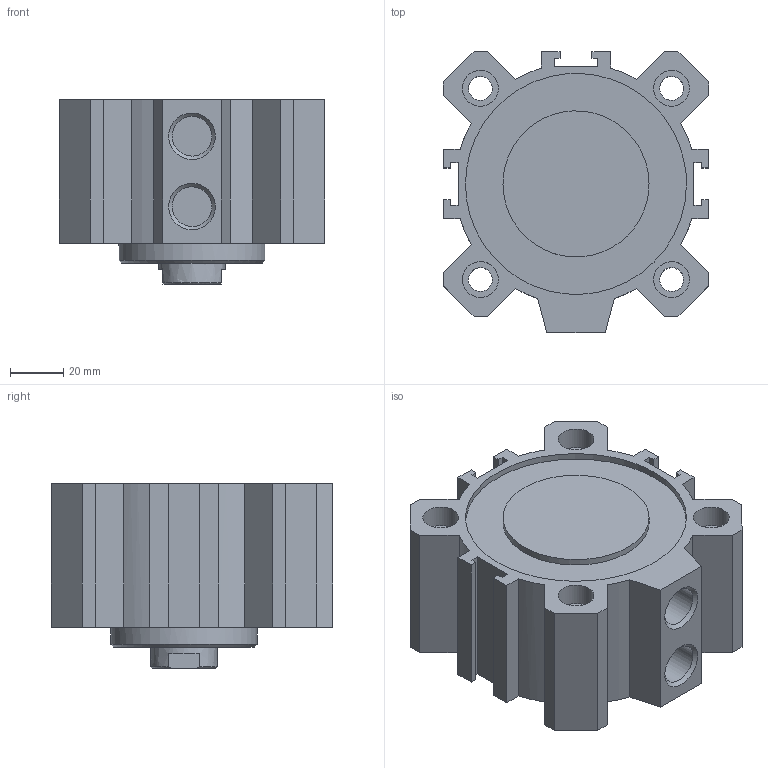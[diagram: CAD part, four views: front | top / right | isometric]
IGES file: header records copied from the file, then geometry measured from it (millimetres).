
Global section: file name: 1511_80_0005; native system: Autodesk Inventor 2014; preprocessor: unknown; author: A. Manieri; date: 20160824.142109; units: millimetre
Bounding box: 100 x 106 x 69.5 mm (x, y, z)
Volume: 417576.3 mm3; surface area: 90653.6 mm2
Topology: 2 solids, 2 shells, 119 faces, 307 edges, 210 vertices
Faces by surface type: bspline 119
